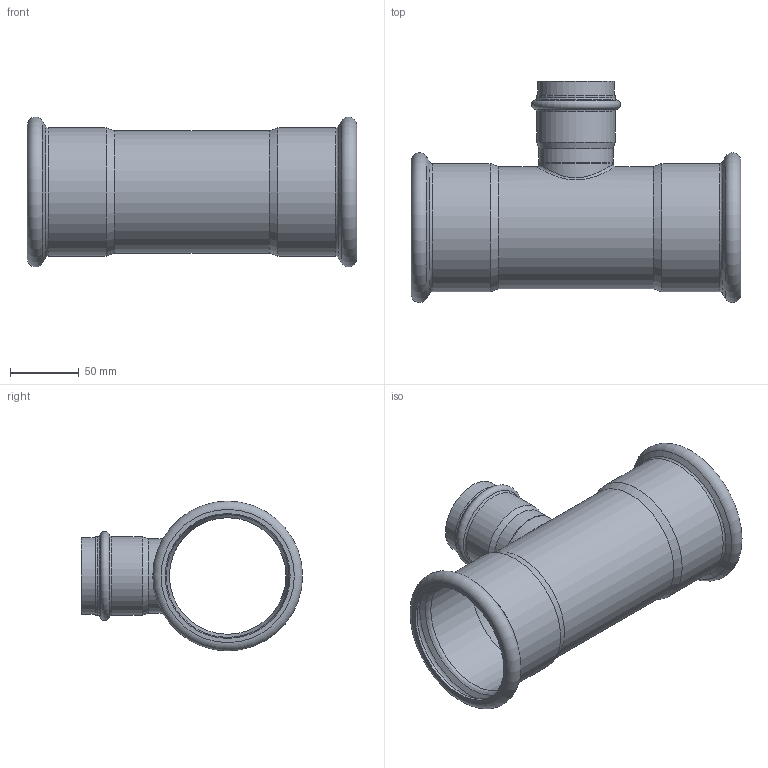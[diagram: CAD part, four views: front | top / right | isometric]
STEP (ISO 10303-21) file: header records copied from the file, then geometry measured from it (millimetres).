
FILE_DESCRIPTION((''),'2;1');
FILE_NAME('G:\Nirosan-Schmiedefeld\Technics\CAD\Bauteile VA\089\69130895489(2).stp','2011-10-28T10:55:37',('herberg'),(''),'Autodesk Inventor 2009','Autodesk Inventor 2009','');
FILE_SCHEMA(('AUTOMOTIVE_DESIGN { 1 0 10303 214 1 1 1 1 }'));
Length unit declared in the file: millimetre
Products named in the file (3): 69130895489(2); LM_69130895489(1); HM_6924354(1)
Assembly tree (2 placements, depth 2):
  69130895489(2)
    LM_69130895489(1)
    HM_6924354(1)
Bounding box: 240 x 161.05 x 109.1 mm (x, y, z)
Volume: 160804.3 mm3; surface area: 169504.9 mm2
Topology: 2 solids, 2 shells, 53 faces, 107 edges, 60 vertices
Faces by surface type: cylinder 17, cone 13, bspline 9, plane 7, torus 7
Full cylindrical faces by diameter (mm): 50 x1, 51 x1, 54 x2, 54.35 x2, 55.95 x1, 57.35 x2, 84.9 x1, 88.9 x1, 89.5 x2, 91 x2, 93.5 x2
Entity records: 3098 total; most frequent: CARTESIAN_POINT 2135, DIRECTION 200, ORIENTED_EDGE 112, EDGE_LOOP 106, AXIS2_PLACEMENT_3D 100, EDGE_CURVE 56, VERTEX_POINT 54, FACE_OUTER_BOUND 53
